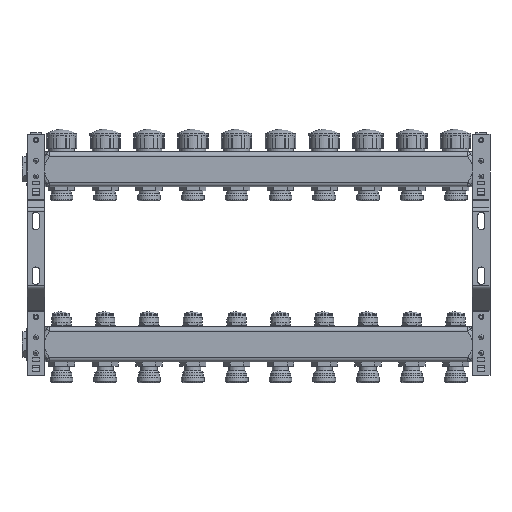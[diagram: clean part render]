
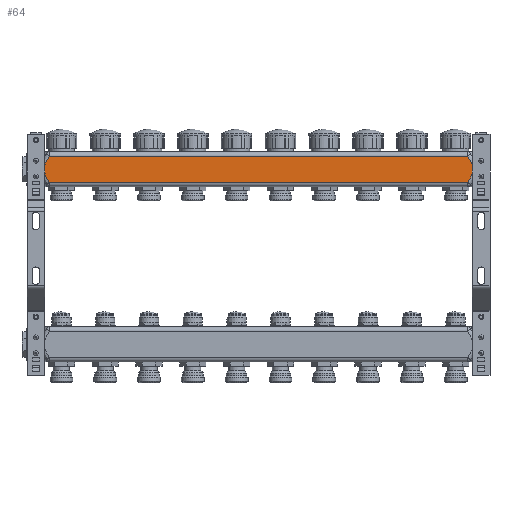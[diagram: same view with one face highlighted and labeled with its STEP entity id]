
A CAD part, front view. The second image highlights one B-rep face of the part: STEP entity #64.
In plain terms, the highlighted planar face has unit normal (0, -1, 0).
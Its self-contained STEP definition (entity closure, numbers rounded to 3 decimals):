
#64=ADVANCED_FACE('',(#1754),#1756,.T.);
#1754=FACE_BOUND('',#1755,.T.);
#1755=EDGE_LOOP('',(#14549,#14550,#14551,#14552,#14553,#14554,#14555,#14556));
#1756=PLANE('',#1757);
#1757=AXIS2_PLACEMENT_3D('',#1758,#1759,#1760);
#1758=CARTESIAN_POINT('',(1.7,19.6,-19.65));
#1759=DIRECTION('',(0.,-1.,0.));
#1760=DIRECTION('',(0.,0.,-1.));
#14549=ORIENTED_EDGE('',*,*,#21390,.F.);
#14550=ORIENTED_EDGE('',*,*,#21389,.T.);
#14551=ORIENTED_EDGE('',*,*,#21391,.T.);
#14552=ORIENTED_EDGE('',*,*,#21392,.T.);
#14553=ORIENTED_EDGE('',*,*,#21393,.T.);
#14554=ORIENTED_EDGE('',*,*,#21394,.T.);
#14555=ORIENTED_EDGE('',*,*,#21395,.F.);
#14556=ORIENTED_EDGE('',*,*,#21384,.T.);
#21384=EDGE_CURVE('',#24924,#24921,#24925,.T.);
#21389=EDGE_CURVE('',#24922,#24930,#24932,.T.);
#21390=EDGE_CURVE('',#24922,#24921,#24933,.T.);
#21391=EDGE_CURVE('',#24930,#24934,#24935,.T.);
#21392=EDGE_CURVE('',#24934,#24936,#24937,.T.);
#21393=EDGE_CURVE('',#24936,#24938,#24939,.F.);
#21394=EDGE_CURVE('',#24938,#24940,#24941,.T.);
#21395=EDGE_CURVE('',#24924,#24940,#24942,.T.);
#24921=VERTEX_POINT('',#32893);
#24922=VERTEX_POINT('',#32894);
#24924=VERTEX_POINT('',#32909);
#24925=B_SPLINE_CURVE_WITH_KNOTS('',3,
(#32910,#32911,#32912,#32913,#32914,#32915,#32916,#32917,#32918,#32919,#32920,#32921),
.UNSPECIFIED.,.F.,.F.,
(4,1,1,1,1,1,1,1,1,4),
(0.,0.148,0.281,0.388,0.488,0.582,
0.677,0.788,0.894,1.),
.UNSPECIFIED.);
#24930=VERTEX_POINT('',#32978);
#24932=B_SPLINE_CURVE_WITH_KNOTS('',3,
(#32983,#32984,#32985,#32986,#32987,#32988,#32989,#32990,#32991,#32992,#32993,#32994),
.UNSPECIFIED.,.F.,.F.,
(4,1,1,1,1,1,1,1,1,4),
(0.,0.148,0.285,0.404,0.507,0.612,
0.722,0.854,0.945,1.),
.UNSPECIFIED.);
#24933=LINE('',#32995,#32996);
#24934=VERTEX_POINT('',#32998);
#24935=LINE('',#32999,#33000);
#24936=VERTEX_POINT('',#33002);
#24937=B_SPLINE_CURVE_WITH_KNOTS('',3,
(#33003,#33004,#33005,#33006,#33007,#33008,#33009,#33010,#33011,#33012,#33013,#33014),
.UNSPECIFIED.,.F.,.F.,
(4,1,1,1,1,1,1,1,1,4),
(0.,0.148,0.281,0.388,0.488,0.582,
0.677,0.788,0.894,1.),
.UNSPECIFIED.);
#24938=VERTEX_POINT('',#33015);
#24939=LINE('',#33016,#33017);
#24940=VERTEX_POINT('',#33019);
#24941=B_SPLINE_CURVE_WITH_KNOTS('',3,
(#33020,#33021,#33022,#33023,#33024,#33025,#33026,#33027,#33028,#33029,#33030,#33031),
.UNSPECIFIED.,.F.,.F.,
(4,1,1,1,1,1,1,1,1,4),
(0.,0.148,0.285,0.404,0.507,0.612,
0.722,0.854,0.945,1.),
.UNSPECIFIED.);
#24942=LINE('',#33032,#33033);
#32893=CARTESIAN_POINT('',(20.,19.6,-35.442));
#32894=CARTESIAN_POINT('',(20.,19.6,-43.858));
#32909=CARTESIAN_POINT('',(25.634,19.6,-24.65));
#32910=CARTESIAN_POINT('',(25.634,19.6,-24.65));
#32911=CARTESIAN_POINT('',(25.276,19.6,-25.157));
#32912=CARTESIAN_POINT('',(24.609,19.6,-26.124));
#32913=CARTESIAN_POINT('',(23.733,19.6,-27.474));
#32914=CARTESIAN_POINT('',(23.003,19.6,-28.67));
#32915=CARTESIAN_POINT('',(22.391,19.6,-29.742));
#32916=CARTESIAN_POINT('',(21.837,19.6,-30.785));
#32917=CARTESIAN_POINT('',(21.305,19.6,-31.879));
#32918=CARTESIAN_POINT('',(20.804,19.6,-33.032));
#32919=CARTESIAN_POINT('',(20.354,19.6,-34.238));
#32920=CARTESIAN_POINT('',(20.109,19.6,-35.041));
#32921=CARTESIAN_POINT('',(20.,19.6,-35.442));
#32978=CARTESIAN_POINT('',(25.634,19.6,-54.65));
#32983=CARTESIAN_POINT('',(20.,19.6,-43.858));
#32984=CARTESIAN_POINT('',(20.152,19.6,-44.421));
#32985=CARTESIAN_POINT('',(20.497,19.6,-45.494));
#32986=CARTESIAN_POINT('',(21.107,19.6,-46.995));
#32987=CARTESIAN_POINT('',(21.728,19.6,-48.305));
#32988=CARTESIAN_POINT('',(22.35,19.6,-49.486));
#32989=CARTESIAN_POINT('',(22.997,19.6,-50.62));
#32990=CARTESIAN_POINT('',(23.744,19.6,-51.844));
#32991=CARTESIAN_POINT('',(24.497,19.6,-53.003));
#32992=CARTESIAN_POINT('',(25.15,19.6,-53.961));
#32993=CARTESIAN_POINT('',(25.501,19.6,-54.462));
#32994=CARTESIAN_POINT('',(25.634,19.6,-54.65));
#32995=CARTESIAN_POINT('',(20.,19.6,-43.858));
#32996=VECTOR('',#32997,1.);
#32997=DIRECTION('',(0.,0.,1.));
#32998=CARTESIAN_POINT('',(502.766,19.6,-54.65));
#32999=CARTESIAN_POINT('',(25.634,19.6,-54.65));
#33000=VECTOR('',#33001,1.);
#33001=DIRECTION('',(1.,0.,0.));
#33002=CARTESIAN_POINT('',(508.4,19.6,-43.858));
#33003=CARTESIAN_POINT('',(502.766,19.6,-54.65));
#33004=CARTESIAN_POINT('',(503.124,19.6,-54.143));
#33005=CARTESIAN_POINT('',(503.791,19.6,-53.176));
#33006=CARTESIAN_POINT('',(504.667,19.6,-51.826));
#33007=CARTESIAN_POINT('',(505.397,19.6,-50.63));
#33008=CARTESIAN_POINT('',(506.009,19.6,-49.558));
#33009=CARTESIAN_POINT('',(506.563,19.6,-48.515));
#33010=CARTESIAN_POINT('',(507.095,19.6,-47.421));
#33011=CARTESIAN_POINT('',(507.596,19.6,-46.268));
#33012=CARTESIAN_POINT('',(508.046,19.6,-45.062));
#33013=CARTESIAN_POINT('',(508.291,19.6,-44.259));
#33014=CARTESIAN_POINT('',(508.4,19.6,-43.858));
#33015=CARTESIAN_POINT('',(508.4,19.6,-35.442));
#33016=CARTESIAN_POINT('',(508.4,19.6,-35.442));
#33017=VECTOR('',#33018,1.);
#33018=DIRECTION('',(0.,0.,-1.));
#33019=CARTESIAN_POINT('',(502.766,19.6,-24.65));
#33020=CARTESIAN_POINT('',(508.4,19.6,-35.442));
#33021=CARTESIAN_POINT('',(508.248,19.6,-34.879));
#33022=CARTESIAN_POINT('',(507.903,19.6,-33.806));
#33023=CARTESIAN_POINT('',(507.293,19.6,-32.305));
#33024=CARTESIAN_POINT('',(506.672,19.6,-30.995));
#33025=CARTESIAN_POINT('',(506.05,19.6,-29.814));
#33026=CARTESIAN_POINT('',(505.403,19.6,-28.68));
#33027=CARTESIAN_POINT('',(504.656,19.6,-27.456));
#33028=CARTESIAN_POINT('',(503.903,19.6,-26.297));
#33029=CARTESIAN_POINT('',(503.25,19.6,-25.339));
#33030=CARTESIAN_POINT('',(502.899,19.6,-24.838));
#33031=CARTESIAN_POINT('',(502.766,19.6,-24.65));
#33032=CARTESIAN_POINT('',(25.634,19.6,-24.65));
#33033=VECTOR('',#33034,1.);
#33034=DIRECTION('',(1.,0.,0.));
